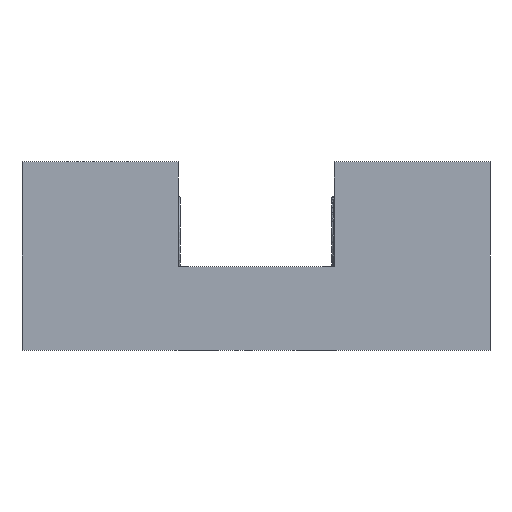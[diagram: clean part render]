
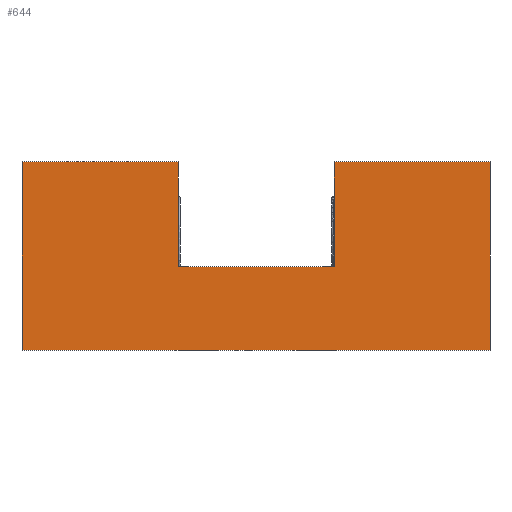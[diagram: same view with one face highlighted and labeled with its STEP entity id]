
A CAD part, front view. The second image highlights one B-rep face of the part: STEP entity #644.
In plain terms, the highlighted planar face has unit normal (0, -1, 0).
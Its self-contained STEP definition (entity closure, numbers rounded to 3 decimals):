
#1=DIRECTION('',(0.,0.,-1.));
#2=VECTOR('',#1,19.5);
#3=CARTESIAN_POINT('',(14.5,0.,17.5));
#4=LINE('',#3,#2);
#5=DIRECTION('',(1.,0.,0.));
#6=VECTOR('',#5,29.);
#7=CARTESIAN_POINT('',(14.5,0.,17.5));
#8=LINE('',#7,#6);
#9=DIRECTION('',(0.,0.,-1.));
#10=VECTOR('',#9,35.);
#11=CARTESIAN_POINT('',(43.5,0.,17.5));
#12=LINE('',#11,#10);
#13=DIRECTION('',(-1.,0.,0.));
#14=VECTOR('',#13,87.);
#15=CARTESIAN_POINT('',(43.5,0.,-17.5));
#16=LINE('',#15,#14);
#17=DIRECTION('',(0.,0.,1.));
#18=VECTOR('',#17,35.);
#19=CARTESIAN_POINT('',(-43.5,0.,-17.5));
#20=LINE('',#19,#18);
#21=DIRECTION('',(1.,0.,0.));
#22=VECTOR('',#21,29.);
#23=CARTESIAN_POINT('',(-43.5,0.,17.5));
#24=LINE('',#23,#22);
#25=DIRECTION('',(0.,0.,-1.));
#26=VECTOR('',#25,19.5);
#27=CARTESIAN_POINT('',(-14.5,0.,17.5));
#28=LINE('',#27,#26);
#29=DIRECTION('',(-1.,0.,0.));
#30=VECTOR('',#29,29.);
#31=CARTESIAN_POINT('',(14.5,0.,-2.));
#32=LINE('',#31,#30);
#485=CARTESIAN_POINT('',(43.5,0.,17.5));
#486=CARTESIAN_POINT('',(43.5,0.,-17.5));
#487=VERTEX_POINT('',#485);
#488=VERTEX_POINT('',#486);
#489=CARTESIAN_POINT('',(-43.5,0.,-17.5));
#490=VERTEX_POINT('',#489);
#491=CARTESIAN_POINT('',(-43.5,0.,17.5));
#492=VERTEX_POINT('',#491);
#501=CARTESIAN_POINT('',(14.5,0.,17.5));
#502=CARTESIAN_POINT('',(14.5,0.,-2.));
#503=VERTEX_POINT('',#501);
#504=VERTEX_POINT('',#502);
#505=CARTESIAN_POINT('',(-14.5,0.,-2.));
#506=VERTEX_POINT('',#505);
#507=CARTESIAN_POINT('',(-14.5,0.,17.5));
#508=VERTEX_POINT('',#507);
#621=CARTESIAN_POINT('',(0.,0.,0.));
#622=DIRECTION('',(0.,1.,0.));
#623=DIRECTION('',(1.,0.,0.));
#624=AXIS2_PLACEMENT_3D('',#621,#622,#623);
#625=PLANE('',#624);
#627=ORIENTED_EDGE('',*,*,#626,.F.);
#629=ORIENTED_EDGE('',*,*,#628,.T.);
#631=ORIENTED_EDGE('',*,*,#630,.T.);
#633=ORIENTED_EDGE('',*,*,#632,.T.);
#635=ORIENTED_EDGE('',*,*,#634,.T.);
#637=ORIENTED_EDGE('',*,*,#636,.T.);
#639=ORIENTED_EDGE('',*,*,#638,.T.);
#641=ORIENTED_EDGE('',*,*,#640,.F.);
#642=EDGE_LOOP('',(#627,#629,#631,#633,#635,#637,#639,#641));
#643=FACE_OUTER_BOUND('',#642,.F.);
#644=ADVANCED_FACE('',(#643),#625,.F.);
#626=EDGE_CURVE('',#503,#504,#4,.T.);
#628=EDGE_CURVE('',#503,#487,#8,.T.);
#630=EDGE_CURVE('',#487,#488,#12,.T.);
#632=EDGE_CURVE('',#488,#490,#16,.T.);
#634=EDGE_CURVE('',#490,#492,#20,.T.);
#636=EDGE_CURVE('',#492,#508,#24,.T.);
#638=EDGE_CURVE('',#508,#506,#28,.T.);
#640=EDGE_CURVE('',#504,#506,#32,.T.);
